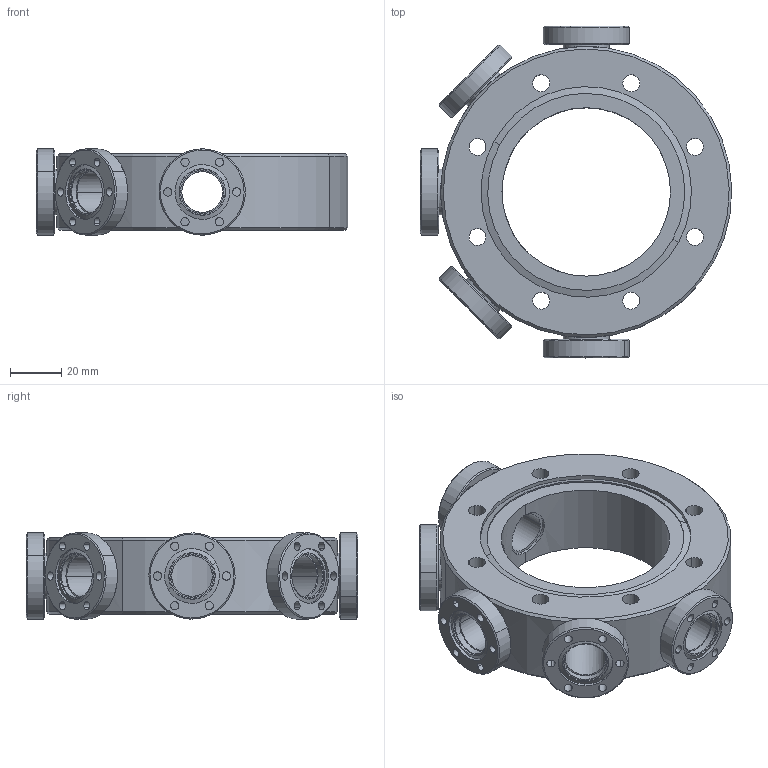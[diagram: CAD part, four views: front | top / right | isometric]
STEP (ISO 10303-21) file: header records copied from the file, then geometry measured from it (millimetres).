
FILE_DESCRIPTION(('CATIA V5 STEP Exchange'),'2;1');
FILE_NAME('W:\KONSTRUKTION\PRODUCTS\MZ\MZF\MZFDSCF63T5XCF16T\MZFDSCF63T5XCF16T.stp','2017-10-18T15:30:45+00:00',('none'),('none'),'CATIA Version 5 Release 20 SP 7 (IN-10)','CATIA V5 STEP AP214','none');
FILE_SCHEMA(('AUTOMOTIVE_DESIGN { 1 0 10303 214 1 1 1 1 }'));
Length unit declared in the file: millimetre
Products named in the file (7): MZFDSCF63T5XCF16T; MZFDSCF63T5XCF16T_DECF63_p1; MZFDSCF63T5XCF16TTFCF16T_p2; MZFDSCF63T5XCF16TTFCF16T_p3; MZFDSCF63T5XCF16TTFCF16T_p4; MZFDSCF63T5XCF16TTFCF16T_p5; MZFDSCF63T5XCF16TTFCF16T_p6
Assembly tree (6 placements, depth 2):
  MZFDSCF63T5XCF16T
    MZFDSCF63T5XCF16T_DECF63_p1
    MZFDSCF63T5XCF16TTFCF16T_p2
    MZFDSCF63T5XCF16TTFCF16T_p3
    MZFDSCF63T5XCF16TTFCF16T_p4
    MZFDSCF63T5XCF16TTFCF16T_p5
    MZFDSCF63T5XCF16TTFCF16T_p6
Bounding box: 121.98 x 130 x 33.79 mm (x, y, z)
Volume: 188565 mm3; surface area: 69283.6 mm2
Topology: 11 solids, 11 shells, 240 faces, 576 edges, 368 vertices
Faces by surface type: cylinder 159, cone 52, plane 29
Entity records: 7204 total; most frequent: CARTESIAN_POINT 1642, ORIENTED_EDGE 1152, DIRECTION 856, EDGE_CURVE 576, AXIS2_PLACEMENT_3D 484, VERTEX_POINT 368, EDGE_LOOP 358, CIRCLE 320
